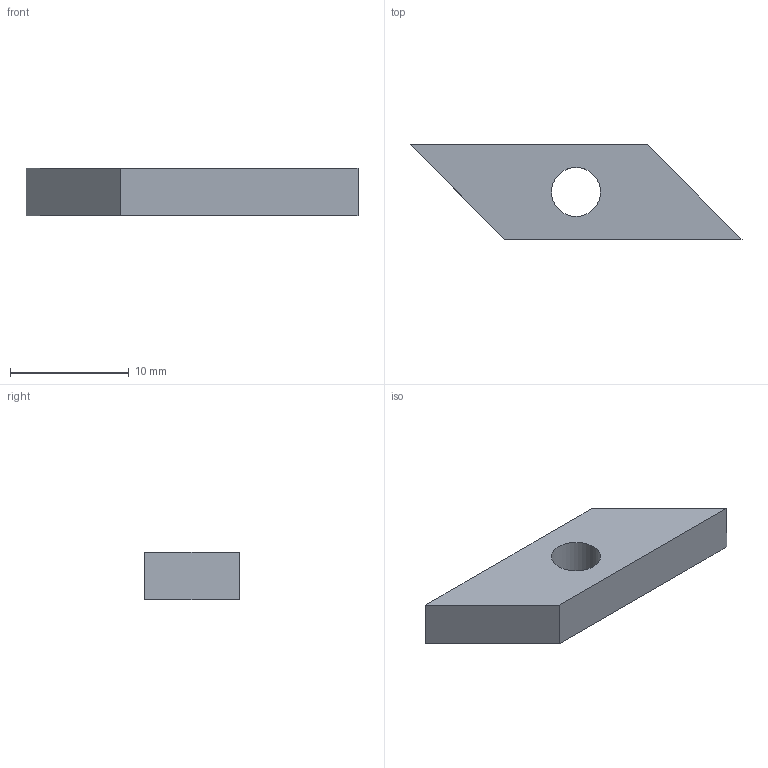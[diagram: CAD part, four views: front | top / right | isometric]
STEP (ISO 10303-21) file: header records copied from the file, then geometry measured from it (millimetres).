
FILE_DESCRIPTION((''),'2;1');
FILE_NAME('E:\catalogue and flyer\Profile catalogue 2015\Accessories JE info\Accessories-JE step file 31MAr16\JE-LN6-8.stp','2016-03-31T16:16:24',('h029'),(''),'Autodesk Inventor 11','Autodesk Inventor 11','');
FILE_SCHEMA(('AUTOMOTIVE_DESIGN { 1 0 10303 214 1 1 1 1 }'));
Length unit declared in the file: millimetre
Products named in the file (1): JE-LN6-8
Bounding box: 28 x 8 x 4 mm (x, y, z)
Volume: 586.3 mm3; surface area: 595.6 mm2
Topology: 1 solids, 1 shells, 7 faces, 16 edges, 11 vertices
Faces by surface type: plane 6, bspline 1
Entity records: 226 total; most frequent: CARTESIAN_POINT 49, DIRECTION 30, ORIENTED_EDGE 28, EDGE_CURVE 14, VECTOR 12, LINE 12, VERTEX_POINT 10, EDGE_LOOP 10
